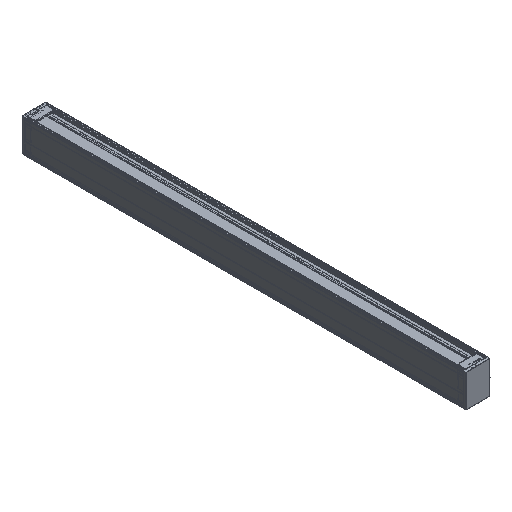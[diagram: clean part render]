
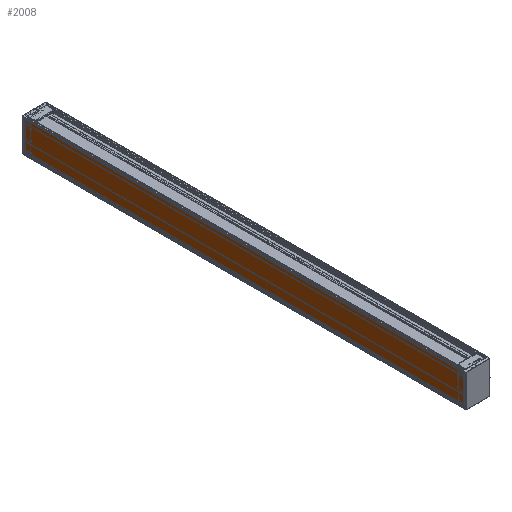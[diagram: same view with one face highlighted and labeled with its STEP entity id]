
A CAD part, isometric view. The second image highlights one B-rep face of the part: STEP entity #2008.
In plain terms, the highlighted free-form (B-spline) face has degree [2, 1] with [3, 2] control points.
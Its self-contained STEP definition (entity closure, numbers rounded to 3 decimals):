
#2008=ADVANCED_FACE('',(#4014),#72734,.T.);
#4014=FACE_OUTER_BOUND('',#6106,.T.);
#6106=EDGE_LOOP('',(#16464,#16465,#16466,#16467));
#16464=ORIENTED_EDGE('',*,*,#53038,.T.);
#16465=ORIENTED_EDGE('',*,*,#53039,.T.);
#16466=ORIENTED_EDGE('',*,*,#53040,.T.);
#16467=ORIENTED_EDGE('',*,*,#53036,.F.);
#18834=(
BOUNDED_CURVE()
B_SPLINE_CURVE(1,(#161169,#161170),.UNSPECIFIED.,.F.,.F.)
B_SPLINE_CURVE_WITH_KNOTS((2,2),(0.,1000.),.UNSPECIFIED.)
CURVE()
GEOMETRIC_REPRESENTATION_ITEM()
RATIONAL_B_SPLINE_CURVE((1.,1.))
REPRESENTATION_ITEM('')
);
#18836=(
BOUNDED_CURVE()
B_SPLINE_CURVE(2,(#161180,#161181,#161182),.UNSPECIFIED.,.F.,.F.)
B_SPLINE_CURVE_WITH_KNOTS((3,3),(-509.152,-435.152),
 .UNSPECIFIED.)
CURVE()
GEOMETRIC_REPRESENTATION_ITEM()
RATIONAL_B_SPLINE_CURVE((1.,1.,1.))
REPRESENTATION_ITEM('')
);
#18837=(
BOUNDED_CURVE()
B_SPLINE_CURVE(1,(#161185,#161186),.UNSPECIFIED.,.F.,.F.)
B_SPLINE_CURVE_WITH_KNOTS((2,2),(0.,1000.),.UNSPECIFIED.)
CURVE()
GEOMETRIC_REPRESENTATION_ITEM()
RATIONAL_B_SPLINE_CURVE((1.,1.))
REPRESENTATION_ITEM('')
);
#18838=(
BOUNDED_CURVE()
B_SPLINE_CURVE(2,(#161189,#161190,#161191),.UNSPECIFIED.,.F.,.F.)
B_SPLINE_CURVE_WITH_KNOTS((3,3),(435.152,509.152),
 .UNSPECIFIED.)
CURVE()
GEOMETRIC_REPRESENTATION_ITEM()
RATIONAL_B_SPLINE_CURVE((1.,1.,1.))
REPRESENTATION_ITEM('')
);
#18957=(
BOUNDED_CURVE()
B_SPLINE_CURVE(2,(#161816,#161817,#161818),.UNSPECIFIED.,.F.,.F.)
B_SPLINE_CURVE_WITH_KNOTS((3,3),(-509.152,-435.152),
 .UNSPECIFIED.)
CURVE()
GEOMETRIC_REPRESENTATION_ITEM()
RATIONAL_B_SPLINE_CURVE((1.,1.,1.))
REPRESENTATION_ITEM('')
);
#19048=(
BOUNDED_CURVE()
B_SPLINE_CURVE(2,(#162137,#162138,#162139),.UNSPECIFIED.,.F.,.F.)
B_SPLINE_CURVE_WITH_KNOTS((3,3),(435.152,509.152),
 .UNSPECIFIED.)
CURVE()
GEOMETRIC_REPRESENTATION_ITEM()
RATIONAL_B_SPLINE_CURVE((1.,1.,1.))
REPRESENTATION_ITEM('')
);
#29833=PCURVE('',#72733,#41117);
#29836=PCURVE('',#72734,#41120);
#29837=PCURVE('',#72734,#41121);
#29838=PCURVE('',#72734,#41122);
#29839=PCURVE('',#72734,#41123);
#29843=PCURVE('',#72735,#41127);
#29994=PCURVE('',#73968,#41278);
#30083=PCURVE('',#73969,#41367);
#41117=DEFINITIONAL_REPRESENTATION('',(#67589),#165303);
#41120=DEFINITIONAL_REPRESENTATION('',(#67592),#165303);
#41121=DEFINITIONAL_REPRESENTATION('',(#67593),#165303);
#41122=DEFINITIONAL_REPRESENTATION('',(#67594),#165303);
#41123=DEFINITIONAL_REPRESENTATION('',(#67595),#165303);
#41127=DEFINITIONAL_REPRESENTATION('',(#67599),#165303);
#41278=DEFINITIONAL_REPRESENTATION('',(#18957),#165303);
#41367=DEFINITIONAL_REPRESENTATION('',(#19048),#165303);
#47394=SURFACE_CURVE('',#18834,(#29833,#29839),.PCURVE_S1.);
#47396=SURFACE_CURVE('',#18836,(#29836,#29994),.PCURVE_S1.);
#47397=SURFACE_CURVE('',#18837,(#29837,#29843),.PCURVE_S1.);
#47398=SURFACE_CURVE('',#18838,(#29838,#30083),.PCURVE_S1.);
#53036=EDGE_CURVE('',#71686,#71687,#47394,.T.);
#53038=EDGE_CURVE('',#71686,#71688,#47396,.T.);
#53039=EDGE_CURVE('',#71688,#71689,#47397,.T.);
#53040=EDGE_CURVE('',#71689,#71687,#47398,.T.);
#67589=B_SPLINE_CURVE_WITH_KNOTS('',1,(#161171,#161172),.UNSPECIFIED.,.F.,
 .F.,(2,2),(0.,1000.),.UNSPECIFIED.);
#67592=B_SPLINE_CURVE_WITH_KNOTS('',1,(#161183,#161184),.UNSPECIFIED.,.F.,
 .F.,(2,2),(-509.152,-435.152),.UNSPECIFIED.);
#67593=B_SPLINE_CURVE_WITH_KNOTS('',1,(#161187,#161188),.UNSPECIFIED.,.F.,
 .F.,(2,2),(0.,1000.),.UNSPECIFIED.);
#67594=B_SPLINE_CURVE_WITH_KNOTS('',1,(#161192,#161193),.UNSPECIFIED.,.F.,
 .F.,(2,2),(435.152,509.152),.UNSPECIFIED.);
#67595=B_SPLINE_CURVE_WITH_KNOTS('',1,(#161194,#161195),.UNSPECIFIED.,.F.,
 .F.,(2,2),(0.,1000.),.UNSPECIFIED.);
#67599=B_SPLINE_CURVE_WITH_KNOTS('',1,(#161210,#161211),.UNSPECIFIED.,.F.,
 .F.,(2,2),(0.,1000.),.UNSPECIFIED.);
#71686=VERTEX_POINT('',#159322);
#71687=VERTEX_POINT('',#159323);
#71688=VERTEX_POINT('',#159324);
#71689=VERTEX_POINT('',#159325);
#72733=(
BOUNDED_SURFACE()
B_SPLINE_SURFACE(2,1,((#158322,#158323),(#158324,#158325),(#158326,#158327)),
 .UNSPECIFIED.,.F.,.F.,.F.)
B_SPLINE_SURFACE_WITH_KNOTS((3,3),(2,2),(-509.937,-509.152),
(0.,1000.),.UNSPECIFIED.)
GEOMETRIC_REPRESENTATION_ITEM()
RATIONAL_B_SPLINE_SURFACE(((1.,1.),(0.707,0.707),
(1.,1.)))
REPRESENTATION_ITEM('')
SURFACE()
);
#72734=(
BOUNDED_SURFACE()
B_SPLINE_SURFACE(2,1,((#158328,#158329),(#158330,#158331),(#158332,#158333)),
 .UNSPECIFIED.,.F.,.F.,.F.)
B_SPLINE_SURFACE_WITH_KNOTS((3,3),(2,2),(-509.152,-435.152),
(0.,1000.),.UNSPECIFIED.)
GEOMETRIC_REPRESENTATION_ITEM()
RATIONAL_B_SPLINE_SURFACE(((1.,1.),(1.,1.),(1.,1.)))
REPRESENTATION_ITEM('')
SURFACE()
);
#72735=(
BOUNDED_SURFACE()
B_SPLINE_SURFACE(2,1,((#158334,#158335),(#158336,#158337),(#158338,#158339)),
 .UNSPECIFIED.,.F.,.F.,.F.)
B_SPLINE_SURFACE_WITH_KNOTS((3,3),(2,2),(-435.152,-434.366),
(0.,1000.),.UNSPECIFIED.)
GEOMETRIC_REPRESENTATION_ITEM()
RATIONAL_B_SPLINE_SURFACE(((1.,1.),(0.707,0.707),
(1.,1.)))
REPRESENTATION_ITEM('')
SURFACE()
);
#73968=B_SPLINE_SURFACE_WITH_KNOTS('',1,1,((#159084,#159085),(#159086,#159087)),
 .UNSPECIFIED.,.F.,.F.,.F.,(2,2),(2,2),(-34.998,58.752),
(-52.575,16.175),.UNSPECIFIED.);
#73969=B_SPLINE_SURFACE_WITH_KNOTS('',1,1,((#159088,#159089),(#159090,#159091)),
 .UNSPECIFIED.,.F.,.F.,.F.,(2,2),(2,2),(-52.575,16.175),(-34.998,
58.752),.UNSPECIFIED.);
#158322=CARTESIAN_POINT('',(-27.,-500.,0.));
#158323=CARTESIAN_POINT('',(-27.,500.,0.));
#158324=CARTESIAN_POINT('',(-27.5,-500.,0.));
#158325=CARTESIAN_POINT('',(-27.5,500.,0.));
#158326=CARTESIAN_POINT('',(-27.5,-500.,0.5));
#158327=CARTESIAN_POINT('',(-27.5,500.,0.5));
#158328=CARTESIAN_POINT('',(-27.5,-500.,0.5));
#158329=CARTESIAN_POINT('',(-27.5,500.,0.5));
#158330=CARTESIAN_POINT('',(-27.5,-500.,37.5));
#158331=CARTESIAN_POINT('',(-27.5,500.,37.5));
#158332=CARTESIAN_POINT('',(-27.5,-500.,74.5));
#158333=CARTESIAN_POINT('',(-27.5,500.,74.5));
#158334=CARTESIAN_POINT('',(-27.5,-500.,74.5));
#158335=CARTESIAN_POINT('',(-27.5,500.,74.5));
#158336=CARTESIAN_POINT('',(-27.5,-500.,75.));
#158337=CARTESIAN_POINT('',(-27.5,500.,75.));
#158338=CARTESIAN_POINT('',(-27.,-500.,75.));
#158339=CARTESIAN_POINT('',(-27.,500.,75.));
#159084=CARTESIAN_POINT('',(34.375,-500.,-9.375));
#159085=CARTESIAN_POINT('',(-34.375,-500.,-9.375));
#159086=CARTESIAN_POINT('',(34.375,-500.,84.375));
#159087=CARTESIAN_POINT('',(-34.375,-500.,84.375));
#159088=CARTESIAN_POINT('',(34.375,500.,-9.375));
#159089=CARTESIAN_POINT('',(34.375,500.,84.375));
#159090=CARTESIAN_POINT('',(-34.375,500.,-9.375));
#159091=CARTESIAN_POINT('',(-34.375,500.,84.375));
#159322=CARTESIAN_POINT('',(-27.5,-500.,0.5));
#159323=CARTESIAN_POINT('',(-27.5,500.,0.5));
#159324=CARTESIAN_POINT('',(-27.5,-500.,74.5));
#159325=CARTESIAN_POINT('',(-27.5,500.,74.5));
#161169=CARTESIAN_POINT('',(-27.5,-500.,0.5));
#161170=CARTESIAN_POINT('',(-27.5,500.,0.5));
#161171=CARTESIAN_POINT('',(-509.152,0.));
#161172=CARTESIAN_POINT('',(-509.152,1000.));
#161180=CARTESIAN_POINT('',(-27.5,-500.,0.5));
#161181=CARTESIAN_POINT('',(-27.5,-500.,37.5));
#161182=CARTESIAN_POINT('',(-27.5,-500.,74.5));
#161183=CARTESIAN_POINT('',(-509.152,0.));
#161184=CARTESIAN_POINT('',(-435.152,0.));
#161185=CARTESIAN_POINT('',(-27.5,-500.,74.5));
#161186=CARTESIAN_POINT('',(-27.5,500.,74.5));
#161187=CARTESIAN_POINT('',(-435.152,0.));
#161188=CARTESIAN_POINT('',(-435.152,1000.));
#161189=CARTESIAN_POINT('',(-27.5,500.,74.5));
#161190=CARTESIAN_POINT('',(-27.5,500.,37.5));
#161191=CARTESIAN_POINT('',(-27.5,500.,0.5));
#161192=CARTESIAN_POINT('',(-435.152,1000.));
#161193=CARTESIAN_POINT('',(-509.152,1000.));
#161194=CARTESIAN_POINT('',(-509.152,0.));
#161195=CARTESIAN_POINT('',(-509.152,1000.));
#161210=CARTESIAN_POINT('',(-435.152,0.));
#161211=CARTESIAN_POINT('',(-435.152,1000.));
#161816=CARTESIAN_POINT('',(-25.123,9.3));
#161817=CARTESIAN_POINT('',(11.877,9.3));
#161818=CARTESIAN_POINT('',(48.877,9.3));
#162137=CARTESIAN_POINT('',(9.3,48.877));
#162138=CARTESIAN_POINT('',(9.3,11.877));
#162139=CARTESIAN_POINT('',(9.3,-25.123));
#165303=(
GEOMETRIC_REPRESENTATION_CONTEXT(2)
PARAMETRIC_REPRESENTATION_CONTEXT()
REPRESENTATION_CONTEXT('pspace','')
);
